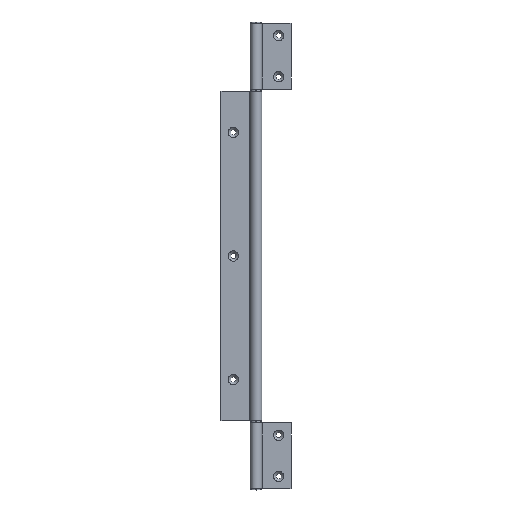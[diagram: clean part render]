
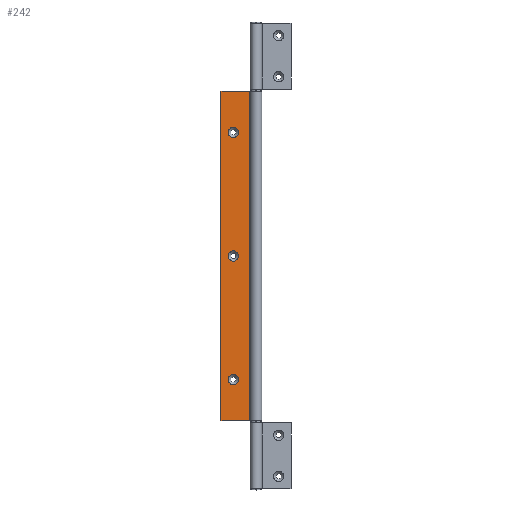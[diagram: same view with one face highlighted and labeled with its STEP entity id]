
A CAD part, top view. The second image highlights one B-rep face of the part: STEP entity #242.
In plain terms, the highlighted planar face has unit normal (0, 0, 1).
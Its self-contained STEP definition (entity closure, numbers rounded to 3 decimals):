
#242 = ADVANCED_FACE( '', ( #384, #385, #386, #387 ), #388, .F. );
#384 = FACE_BOUND( '', #616, .T. );
#385 = FACE_BOUND( '', #617, .T. );
#386 = FACE_BOUND( '', #618, .T. );
#387 = FACE_OUTER_BOUND( '', #619, .T. );
#388 = PLANE( '', #620 );
#616 = EDGE_LOOP( '', ( #1061 ) );
#617 = EDGE_LOOP( '', ( #1062 ) );
#618 = EDGE_LOOP( '', ( #1063 ) );
#619 = EDGE_LOOP( '', ( #1064, #1065, #1066, #1067 ) );
#620 = AXIS2_PLACEMENT_3D( '', #1068, #1069, #1070 );
#1061 = ORIENTED_EDGE( '', *, *, #1548, .F. );
#1062 = ORIENTED_EDGE( '', *, *, #1549, .F. );
#1063 = ORIENTED_EDGE( '', *, *, #1550, .F. );
#1064 = ORIENTED_EDGE( '', *, *, #1524, .T. );
#1065 = ORIENTED_EDGE( '', *, *, #1547, .F. );
#1066 = ORIENTED_EDGE( '', *, *, #1501, .F. );
#1067 = ORIENTED_EDGE( '', *, *, #1551, .T. );
#1068 = CARTESIAN_POINT( '', ( -42.5, 400., 1.25 ) );
#1069 = DIRECTION( '', ( 0., 0., -1. ) );
#1070 = DIRECTION( '', ( -1., 0., 0. ) );
#1501 = EDGE_CURVE( '', #1747, #1749, #1750, .T. );
#1524 = EDGE_CURVE( '', #1794, #1792, #1795, .T. );
#1547 = EDGE_CURVE( '', #1749, #1792, #1830, .T. );
#1548 = EDGE_CURVE( '', #1831, #1831, #1832, .T. );
#1549 = EDGE_CURVE( '', #1833, #1833, #1834, .T. );
#1550 = EDGE_CURVE( '', #1835, #1835, #1836, .T. );
#1551 = EDGE_CURVE( '', #1747, #1794, #1837, .T. );
#1747 = VERTEX_POINT( '', #2127 );
#1749 = VERTEX_POINT( '', #2129 );
#1750 = LINE( '', #2130, #2131 );
#1792 = VERTEX_POINT( '', #2184 );
#1794 = VERTEX_POINT( '', #2186 );
#1795 = LINE( '', #2187, #2188 );
#1830 = LINE( '', #2236, #2237 );
#1831 = VERTEX_POINT( '', #2238 );
#1832 = CIRCLE( '', #2239, 6.3 );
#1833 = VERTEX_POINT( '', #2240 );
#1834 = CIRCLE( '', #2241, 6.3 );
#1835 = VERTEX_POINT( '', #2242 );
#1836 = CIRCLE( '', #2243, 6.3 );
#1837 = LINE( '', #2244, #2245 );
#2127 = CARTESIAN_POINT( '', ( -42.5, 400., 1.25 ) );
#2129 = CARTESIAN_POINT( '', ( -7.677, 400., 1.25 ) );
#2130 = CARTESIAN_POINT( '', ( -42.5, 400., 1.25 ) );
#2131 = VECTOR( '', #2557, 1000. );
#2184 = CARTESIAN_POINT( '', ( -7.677, 0., 1.25 ) );
#2186 = CARTESIAN_POINT( '', ( -42.5, 0., 1.25 ) );
#2187 = CARTESIAN_POINT( '', ( -42.5, 0., 1.25 ) );
#2188 = VECTOR( '', #2602, 1000. );
#2236 = CARTESIAN_POINT( '', ( -7.677, 400., 1.25 ) );
#2237 = VECTOR( '', #2643, 1000. );
#2238 = CARTESIAN_POINT( '', ( -21.2, 350., 1.25 ) );
#2239 = AXIS2_PLACEMENT_3D( '', #2644, #2645, #2646 );
#2240 = CARTESIAN_POINT( '', ( -21.2, 50., 1.25 ) );
#2241 = AXIS2_PLACEMENT_3D( '', #2647, #2648, #2649 );
#2242 = CARTESIAN_POINT( '', ( -21.2, 200., 1.25 ) );
#2243 = AXIS2_PLACEMENT_3D( '', #2650, #2651, #2652 );
#2244 = CARTESIAN_POINT( '', ( -42.5, 400., 1.25 ) );
#2245 = VECTOR( '', #2653, 1000. );
#2557 = DIRECTION( '', ( 1., 0., 0. ) );
#2602 = DIRECTION( '', ( 1., 0., 0. ) );
#2643 = DIRECTION( '', ( 0., -1., 0. ) );
#2644 = CARTESIAN_POINT( '', ( -27.5, 350., 1.25 ) );
#2645 = DIRECTION( '', ( 0., 0., 1. ) );
#2646 = DIRECTION( '', ( 1., 0., 0. ) );
#2647 = CARTESIAN_POINT( '', ( -27.5, 50., 1.25 ) );
#2648 = DIRECTION( '', ( 0., 0., 1. ) );
#2649 = DIRECTION( '', ( 1., 0., 0. ) );
#2650 = CARTESIAN_POINT( '', ( -27.5, 200., 1.25 ) );
#2651 = DIRECTION( '', ( 0., 0., 1. ) );
#2652 = DIRECTION( '', ( 1., 0., 0. ) );
#2653 = DIRECTION( '', ( 0., -1., 0. ) );
